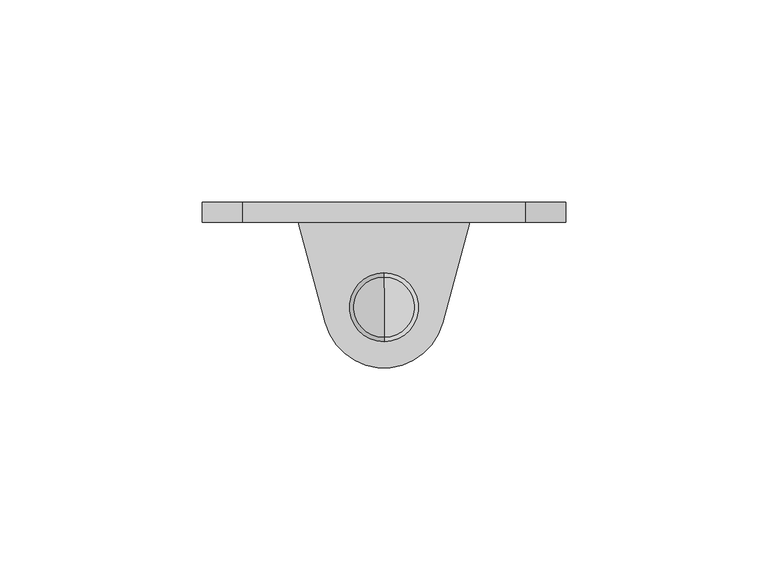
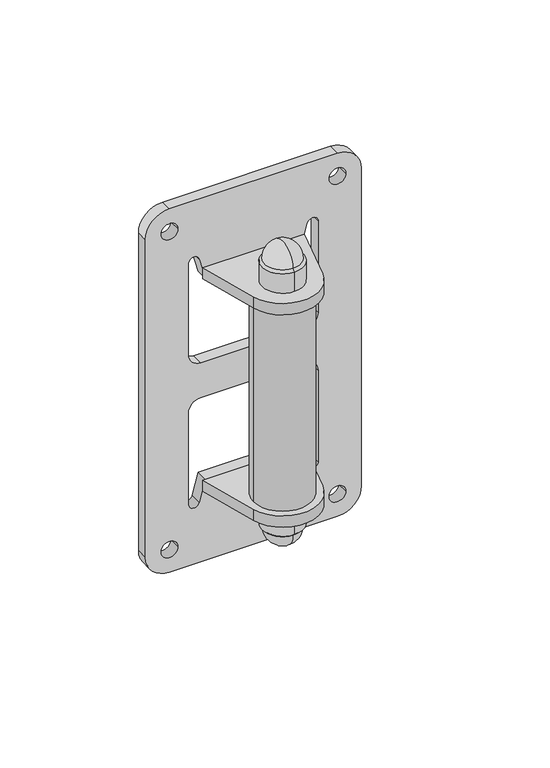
"""IFC4 building model written with IfcOpenShell, lengths in millimetres: proxy geometry, ePS8-WM01-WVM : ePS8-WM01-WVM."""

from ifc_helpers import new_model, si_unit, point, frame, frame_2d, origin, place, context, project, spatial, polyline, circle_curve, ellipse_curve, trimmed, segment, composite_curve, outline, extrude, source, transform, mapped, element, save
from ifc_brep_helpers import plane_surface, cylinder_surface, revolved_surface, advanced_brep


def generic_models_452a7467(model_context):
    return source(origin(), model_context, "Body", "SolidModel", [
        advanced_brep(
        [(0.0, -18.5250899, 58.8223064), (0.0, -33.480477, 58.8223064), (0.0, -26.0027834, 66.3), (0.0, -17.5027834, 57.8), (0.0, -34.5027834, 57.8), (0.0, -17.5027834, 49.3), (0.0, -34.5027834, 49.3), (0.0, -26.0027834, 49.3)],
        [
            (0, 1, circle_curve(frame((0.0, -26.0027834, 58.8223064), z_axis=(0.0, 0.0, 1.0), x_axis=(0.0, -1.0, 0.0)), 7.4776936)),
            (1, 2, circle_curve(frame((0.0, -26.0027834, 58.8223064), z_axis=(-1.0, 0.0, 0.0), x_axis=(0.0, 1.0, 0.0)), 7.4776936)),
            (2, 0, circle_curve(frame((0.0, -26.0027834, 58.8223064), z_axis=(-1.0, 0.0, 0.0), x_axis=(0.0, -1.0, 0.0)), 7.4776936)),
            (1, 0, circle_curve(frame((0.0, -26.0027834, 58.8223064), z_axis=(0.0, 0.0, 1.0), x_axis=(0.0, -1.0, 0.0)), 7.4776936)),
            (3, 4, circle_curve(frame((0.0, -26.0027834, 57.8), z_axis=(0.0, 0.0, 1.0), x_axis=(0.0, -1.0, 0.0)), 8.5)),
            (4, 1),
            (0, 3),
            (4, 3, circle_curve(frame((0.0, -26.0027834, 57.8), z_axis=(0.0, 0.0, 1.0), x_axis=(0.0, -1.0, 0.0)), 8.5)),
            (5, 6, circle_curve(frame((0.0, -26.0027834, 49.3), z_axis=(0.0, 0.0, 1.0), x_axis=(0.0, -1.0, 0.0)), 8.5)),
            (6, 4),
            (3, 5),
            (6, 5, circle_curve(frame((0.0, -26.0027834, 49.3), z_axis=(0.0, 0.0, 1.0), x_axis=(0.0, -1.0, 0.0)), 8.5)),
            (7, 6),
            (5, 7),
        ],
        [
            revolved_surface(trimmed(ellipse_curve(frame((0.0, -26.0027834, 58.8223064), z_axis=(1.0, 0.0, 0.0), x_axis=(0.0, 1.0, 0.0)), 7.4776936, 7.4776936), [point((0.0, -26.0027834, 66.3))], [point((0.0, -33.480477, 58.8223064))], True, "CARTESIAN"), (0.0, -26.0027834, 74.3), (0.0, 0.0, -1.0)),
            revolved_surface(polyline([(0.0, -33.480477, 58.8223064), (0.0, -34.5027834, 57.8)]), (0.0, -26.0027834, 74.3), (0.0, 0.0, -1.0)),
            cylinder_surface(frame((0.0, -26.0027834, 74.3), z_axis=(0.0, 0.0, -1.0), x_axis=(0.0, -1.0, 0.0)), 8.5),
            plane_surface(frame((0.0, -26.0027834, 49.3), z_axis=(0.0, 0.0, -1.0), x_axis=(0.0, -1.0, 0.0))),
        ],
        [
            (0, [[1, 2, 3]]),
            (0, [[4, -3, -2]]),
            (1, [[5, 6, -1, 7]]),
            (1, [[8, -7, -4, -6]]),
            (2, [[9, 10, -5, 11]]),
            (2, [[12, -11, -8, -10]]),
            (3, [[13, -9, 14]]),
            (3, [[-14, -12, -13]]),
        ],
    ),
        advanced_brep(
        [(0.0, -17.5027834, -49.3), (0.0, -34.5027834, -49.3), (0.0, -26.0027834, -49.3), (0.0, -17.5027834, -57.8), (0.0, -34.5027834, -57.8), (0.0, -18.5250899, -58.8223064), (0.0, -33.480477, -58.8223064), (0.0, -26.0027834, -66.3)],
        [
            (0, 1, circle_curve(frame((0.0, -26.0027834, -49.3), z_axis=(0.0, 0.0, 1.0), x_axis=(0.0, -1.0, 0.0)), 8.5)),
            (1, 2),
            (2, 0),
            (1, 0, circle_curve(frame((0.0, -26.0027834, -49.3), z_axis=(0.0, 0.0, 1.0), x_axis=(0.0, -1.0, 0.0)), 8.5)),
            (3, 4, circle_curve(frame((0.0, -26.0027834, -57.8), z_axis=(0.0, 0.0, 1.0), x_axis=(0.0, -1.0, 0.0)), 8.5)),
            (4, 1),
            (0, 3),
            (4, 3, circle_curve(frame((0.0, -26.0027834, -57.8), z_axis=(0.0, 0.0, 1.0), x_axis=(0.0, -1.0, 0.0)), 8.5)),
            (5, 6, circle_curve(frame((0.0, -26.0027834, -58.8223064), z_axis=(0.0, 0.0, 1.0), x_axis=(0.0, -1.0, 0.0)), 7.4776936)),
            (6, 4),
            (3, 5),
            (6, 5, circle_curve(frame((0.0, -26.0027834, -58.8223064), z_axis=(0.0, 0.0, 1.0), x_axis=(0.0, -1.0, 0.0)), 7.4776936)),
            (7, 6, circle_curve(frame((0.0, -26.0027834, -58.8223064), z_axis=(-1.0, 0.0, 0.0), x_axis=(0.0, 1.0, 0.0)), 7.4776936)),
            (5, 7, circle_curve(frame((0.0, -26.0027834, -58.8223064), z_axis=(-1.0, 0.0, 0.0), x_axis=(0.0, -1.0, 0.0)), 7.4776936)),
        ],
        [
            plane_surface(frame((0.0, -26.0027834, -49.3), z_axis=(0.0, 0.0, 1.0), x_axis=(0.0, -1.0, 0.0))),
            cylinder_surface(frame((0.0, -26.0027834, 74.3), z_axis=(0.0, 0.0, -1.0), x_axis=(0.0, -1.0, 0.0)), 8.5),
            revolved_surface(polyline([(0.0, -34.5027834, -57.8), (0.0, -33.480477, -58.8223064)]), (0.0, -26.0027834, 74.3), (0.0, 0.0, -1.0)),
            revolved_surface(trimmed(ellipse_curve(frame((0.0, -26.0027834, -58.8223064), z_axis=(1.0, 0.0, 0.0), x_axis=(0.0, 1.0, 0.0)), 7.4776936, 7.4776936), [point((0.0, -33.480477, -58.8223064))], [point((0.0, -26.0027834, -66.3))], True, "CARTESIAN"), (0.0, -26.0027834, 74.3), (0.0, 0.0, -1.0)),
        ],
        [
            (0, [[1, 2, 3]]),
            (0, [[4, -3, -2]]),
            (1, [[5, 6, -1, 7]]),
            (1, [[8, -7, -4, -6]]),
            (2, [[9, 10, -5, 11]]),
            (2, [[12, -11, -8, -10]]),
            (3, [[13, -9, 14]]),
            (3, [[-14, -12, -13]]),
        ],
    ),
        extrude(outline(composite_curve([segment(trimmed(circle_curve(frame_2d((0.0, -26.0027834)), 12.0), [point((-12.0, -26.0027834))], [point((12.0, -26.0027834))], False, "CARTESIAN"), True, "CONTINUOUS"), segment(trimmed(circle_curve(frame_2d((0.0, -26.0027834)), 12.0), [point((12.0, -26.0027834))], [point((-12.0, -26.0027834))], False, "CARTESIAN"), True, "CONTINUOUS")], self_intersect=False)), frame((0.0, 0.0, -44.3), z_axis=(0.0, 0.0, 1.0), x_axis=(1.0, 0.0, 0.0)), (0.0, 0.0, 1.0), 88.6),
        extrude(outline(composite_curve([segment(polyline([(21.1560758, -5.0027833), (14.4888874, -29.8850691)]), True, "CONTINUOUS"), segment(trimmed(circle_curve(frame_2d((0.0, -26.0027834)), 15.0), [point((14.4888874, -29.8850691))], [point((-14.4888874, -29.8850691))], False, "CARTESIAN"), True, "CONTINUOUS"), segment(polyline([(-14.4888874, -29.8850691), (-21.1560758, -5.0027833), (21.1560758, -5.0027833)]), True, "CONTINUOUS")], self_intersect=False), holes=[composite_curve([segment(trimmed(circle_curve(frame_2d((0.0, -26.0027834)), 3.5), [point((-3.5, -26.0027834))], [point((3.5, -26.0027834))], True, "CARTESIAN"), True, "CONTINUOUS"), segment(trimmed(circle_curve(frame_2d((0.0, -26.0027834)), 3.5), [point((3.5, -26.0027834))], [point((-3.5, -26.0027834))], True, "CARTESIAN"), True, "CONTINUOUS")], self_intersect=False)]), frame((0.0, 0.0, -49.3), z_axis=(0.0, 0.0, 1.0), x_axis=(1.0, 0.0, 0.0)), (0.0, 0.0, 1.0), 5.0),
        extrude(outline(composite_curve([segment(polyline([(21.1560758, -5.0027833), (14.4888874, -29.8850691)]), True, "CONTINUOUS"), segment(trimmed(circle_curve(frame_2d((0.0, -26.0027834)), 15.0), [point((14.4888874, -29.8850691))], [point((-14.4888874, -29.8850691))], False, "CARTESIAN"), True, "CONTINUOUS"), segment(polyline([(-14.4888874, -29.8850691), (-21.1560758, -5.0027833), (21.1560758, -5.0027833)]), True, "CONTINUOUS")], self_intersect=False), holes=[composite_curve([segment(trimmed(circle_curve(frame_2d((0.0, -26.0027834)), 3.5), [point((-3.5, -26.0027834))], [point((3.5, -26.0027834))], True, "CARTESIAN"), True, "CONTINUOUS"), segment(trimmed(circle_curve(frame_2d((0.0, -26.0027834)), 3.5), [point((3.5, -26.0027834))], [point((-3.5, -26.0027834))], True, "CARTESIAN"), True, "CONTINUOUS")], self_intersect=False)]), frame((0.0, 0.0, 44.3), z_axis=(0.0, 0.0, 1.0), x_axis=(1.0, 0.0, 0.0)), (0.0, 0.0, 1.0), 5.0),
        extrude(outline(composite_curve([segment(polyline([(80.0, 35.0), (80.0, -35.0)]), True, "CONTINUOUS"), segment(trimmed(circle_curve(frame_2d((70.0, -35.0)), 10.0), [point((80.0, -35.0))], [point((70.0, -45.0))], False, "CARTESIAN"), True, "CONTINUOUS"), segment(polyline([(70.0, -45.0), (-70.0, -45.0)]), True, "CONTINUOUS"), segment(trimmed(circle_curve(frame_2d((-70.0, -35.0)), 10.0), [point((-70.0, -45.0))], [point((-80.0, -35.0))], False, "CARTESIAN"), True, "CONTINUOUS"), segment(polyline([(-80.0, -35.0), (-80.0, 35.0)]), True, "CONTINUOUS"), segment(trimmed(circle_curve(frame_2d((-70.0, 35.0)), 10.0), [point((-80.0, 35.0))], [point((-70.0, 45.0))], False, "CARTESIAN"), True, "CONTINUOUS"), segment(polyline([(-70.0, 45.0), (70.0, 45.0)]), True, "CONTINUOUS"), segment(trimmed(circle_curve(frame_2d((70.0, 35.0)), 10.0), [point((70.0, 45.0))], [point((80.0, 35.0))], False, "CARTESIAN"), True, "CONTINUOUS")], self_intersect=False), holes=[composite_curve([segment(trimmed(circle_curve(frame_2d((70.0, 35.0)), 3.5), [point((70.0, 31.5))], [point((70.0, 38.5))], True, "CARTESIAN"), True, "CONTINUOUS"), segment(trimmed(circle_curve(frame_2d((70.0, 35.0)), 3.5), [point((70.0, 38.5))], [point((70.0, 31.5))], True, "CARTESIAN"), True, "CONTINUOUS")], self_intersect=False), composite_curve([segment(trimmed(circle_curve(frame_2d((70.0, -35.0)), 3.5), [point((70.0, -31.5))], [point((70.0, -38.5))], True, "CARTESIAN"), True, "CONTINUOUS"), segment(trimmed(circle_curve(frame_2d((70.0, -35.0)), 3.5), [point((70.0, -38.5))], [point((70.0, -31.5))], True, "CARTESIAN"), True, "CONTINUOUS")], self_intersect=False), composite_curve([segment(trimmed(circle_curve(frame_2d((-70.0, -35.0)), 3.5), [point((-70.0, -31.5))], [point((-70.0, -38.5))], True, "CARTESIAN"), True, "CONTINUOUS"), segment(trimmed(circle_curve(frame_2d((-70.0, -35.0)), 3.5), [point((-70.0, -38.5))], [point((-70.0, -31.5))], True, "CARTESIAN"), True, "CONTINUOUS")], self_intersect=False), composite_curve([segment(trimmed(circle_curve(frame_2d((-70.0, 35.0)), 3.5), [point((-70.0, 31.5))], [point((-70.0, 38.5))], True, "CARTESIAN"), True, "CONTINUOUS"), segment(trimmed(circle_curve(frame_2d((-70.0, 35.0)), 3.5), [point((-70.0, 38.5))], [point((-70.0, 31.5))], True, "CARTESIAN"), True, "CONTINUOUS")], self_intersect=False), composite_curve([segment(polyline([(7.75, 22.0), (7.75, -22.0)]), True, "CONTINUOUS"), segment(trimmed(circle_curve(frame_2d((12.75, -22.0)), 5.0), [point((7.75, -22.0))], [point((12.75, -27.0))], True, "CARTESIAN"), True, "CONTINUOUS"), segment(polyline([(12.75, -27.0), (53.0, -27.0)]), True, "CONTINUOUS"), segment(trimmed(circle_curve(frame_2d((53.0, -24.735039)), 2.264961), [point((53.0, -27.0))], [point((53.5176381, -22.5300222))], True, "CARTESIAN"), True, "CONTINUOUS"), segment(polyline([(53.5176381, -22.5300222), (44.3, -20.0601636), (44.3, 20.0601636), (53.5176381, 22.5300222)]), True, "CONTINUOUS"), segment(trimmed(circle_curve(frame_2d((52.9290084, 24.726818)), 2.2742903), [point((53.5176381, 22.5300222))], [point((53.0, 27.0))], True, "CARTESIAN"), True, "CONTINUOUS"), segment(polyline([(53.0, 27.0), (12.75, 27.0)]), True, "CONTINUOUS"), segment(trimmed(circle_curve(frame_2d((12.75, 22.0)), 5.0), [point((12.75, 27.0))], [point((7.75, 22.0))], True, "CARTESIAN"), True, "CONTINUOUS")], self_intersect=False), composite_curve([segment(trimmed(circle_curve(frame_2d((-12.75, 22.0)), 5.0), [point((-7.75, 22.0))], [point((-12.75, 27.0))], True, "CARTESIAN"), True, "CONTINUOUS"), segment(polyline([(-12.75, 27.0), (-53.0, 27.0)]), True, "CONTINUOUS"), segment(trimmed(circle_curve(frame_2d((-52.9290084, 24.726818)), 2.2742903), [point((-53.0, 27.0))], [point((-53.5176381, 22.5300222))], True, "CARTESIAN"), True, "CONTINUOUS"), segment(polyline([(-53.5176381, 22.5300222), (-44.3, 20.0601636), (-44.3, -20.0601636), (-53.5176381, -22.5300222)]), True, "CONTINUOUS"), segment(trimmed(circle_curve(frame_2d((-53.0, -24.735039)), 2.264961), [point((-53.5176381, -22.5300222))], [point((-53.0, -27.0))], True, "CARTESIAN"), True, "CONTINUOUS"), segment(polyline([(-53.0, -27.0), (-12.75, -27.0)]), True, "CONTINUOUS"), segment(trimmed(circle_curve(frame_2d((-12.75, -22.0)), 5.0), [point((-12.75, -27.0))], [point((-7.75, -22.0))], True, "CARTESIAN"), True, "CONTINUOUS"), segment(polyline([(-7.75, -22.0), (-7.75, 22.0)]), True, "CONTINUOUS")], self_intersect=False)]), frame((0.0, -5.0027833, 0.0), z_axis=(0.0, 1.0, 0.0), x_axis=(0.0, 0.0, 1.0)), (0.0, 0.0, 1.0), 5.0027833),
    ])


if __name__ == "__main__":
    model = new_model("IFC4")
    model_context = context("Model", 3, world=origin())
    ifc_project = project(units=[si_unit("LENGTHUNIT", "METRE", prefix="MILLI")], contexts=[model_context])
    site = spatial("IfcSite", under=ifc_project)
    building = spatial("IfcBuilding", under=site)
    placement = place(None, origin())
    generic_models_shape = generic_models_452a7467(model_context)
    element("IfcBuildingElementProxy", 1, Name="ePS8-WM01-WVM : ePS8-WM01-WVM", ObjectType="ePS8-WM01-WVM : ePS8-WM01-WVM", at=placement, inside=building, context=model_context, shape_type="MappedRepresentation", body=[
        mapped(generic_models_shape, transform((0.0, 0.0, 0.0), x_axis=(1.0, 0.0, 0.0), y_axis=(0.0, 1.0, 0.0), z_axis=(0.0, 0.0, 1.0))),
    ])
    save(model, "model.ifc")
